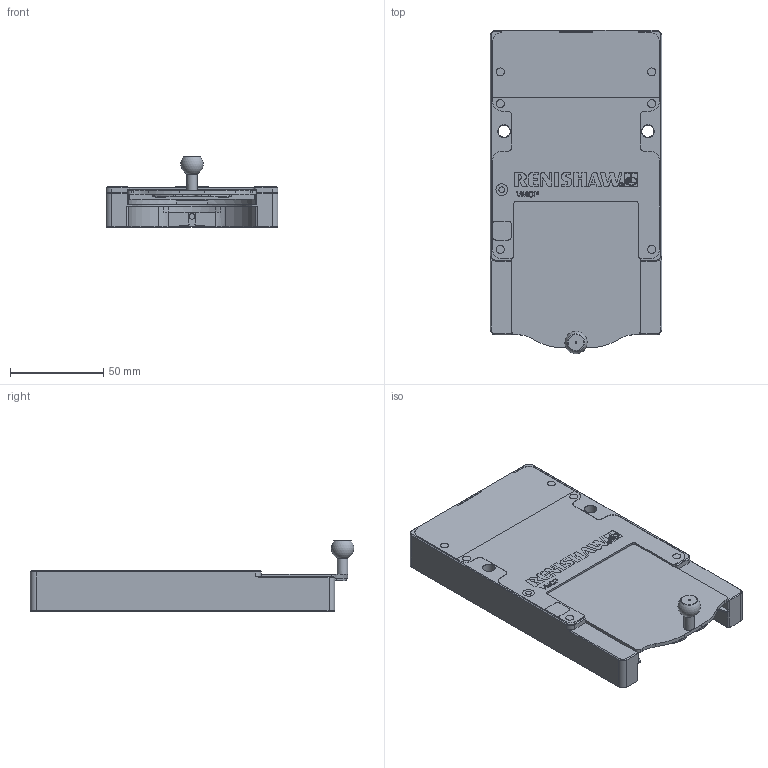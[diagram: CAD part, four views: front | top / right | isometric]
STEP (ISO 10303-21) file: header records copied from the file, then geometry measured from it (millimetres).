
FILE_DESCRIPTION(/* description */ (''),/* implementation_level */ '2;1');
FILE_NAME(/* name */ 'LA-5378-3171-C.stp',/* time_stamp */ '2022-02-03T08:39:22+00:00',/* author */ (''),/* organization */ (''),/* preprocessor_version */ 'ST-DEVELOPER v16.7',/* originating_system */ 'SIEMENS PLM Software NX 1946',/* authorisation */ '');
FILE_SCHEMA (('AUTOMOTIVE_DESIGN { 1 0 10303 214 3 1 1 1 }'));
Length unit declared in the file: millimetre
Products named in the file (3): LA-5378-3172-B_VMCP LID; LA-5378-3166-B_VMCP BODY; LA-5378-3171-C_VMCP ASSEMBLY
Assembly tree (2 placements, depth 2):
  LA-5378-3171-C_VMCP ASSEMBLY
    LA-5378-3166-B_VMCP BODY
    LA-5378-3172-B_VMCP LID
Bounding box: 92 x 173.12 x 37.8 mm (x, y, z)
Volume: 249822.9 mm3; surface area: 52011.7 mm2
Topology: 2 solids, 2 shells, 276 faces, 841 edges, 621 vertices
Faces by surface type: plane 168, cylinder 75, cone 32, sphere 1
Full cylindrical faces by diameter (mm): 5.4 x4, 5.6 x1, 6.5 x2, 11 x2
Entity records: 10371 total; most frequent: CARTESIAN_POINT 1871, ORIENTED_EDGE 1624, DIRECTION 1603, EDGE_CURVE 812, VERTEX_POINT 613, LINE 537, VECTOR 537, AXIS2_PLACEMENT_3D 533
